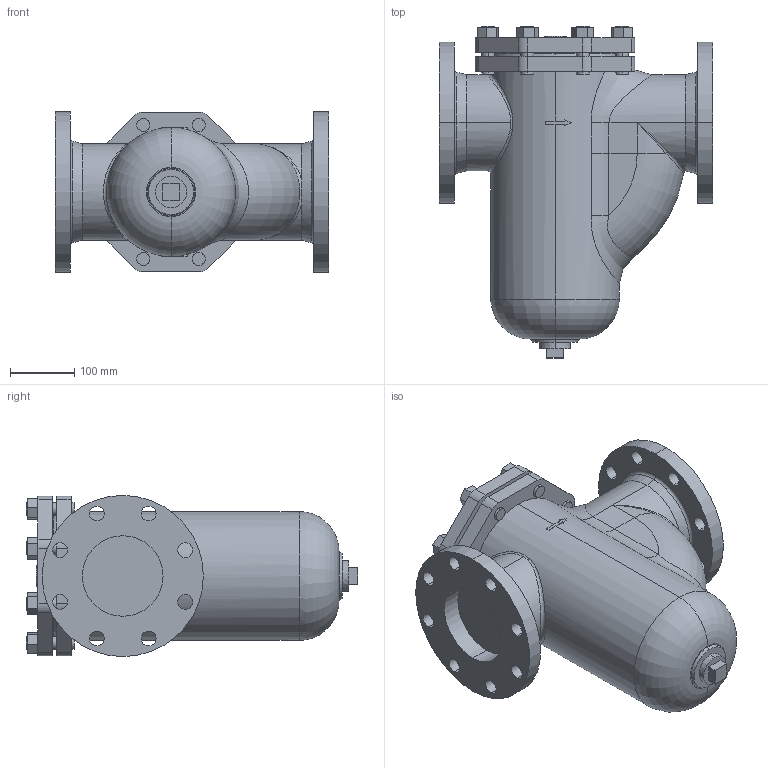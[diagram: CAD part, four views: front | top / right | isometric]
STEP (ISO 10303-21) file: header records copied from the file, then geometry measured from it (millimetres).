
FILE_DESCRIPTION (( 'STEP AP203' ), '1' );
FILE_NAME ('SU-20 125A.STEP', '2025-12-15T01:27:32', ( '' ), ( '' ), 'SwSTEP 2.0', 'SolidWorks 2024', '' );
FILE_SCHEMA (( 'CONFIG_CONTROL_DESIGN' ));
Length unit declared in the file: millimetre
Products named in the file (1): SU-20 125A
Bounding box: 425 x 514.8 x 250 mm (x, y, z)
Volume: 21697178 mm3; surface area: 744903.7 mm2
Topology: 1 solids, 1 shells, 277 faces, 694 edges, 451 vertices
Faces by surface type: plane 131, cylinder 118, cone 12, bspline 7, torus 7, sphere 2
Entity records: 10673 total; most frequent: CARTESIAN_POINT 3709, DIRECTION 1478, ORIENTED_EDGE 1384, EDGE_CURVE 692, AXIS2_PLACEMENT_3D 549, VERTEX_POINT 451, VECTOR 380, LINE 380
